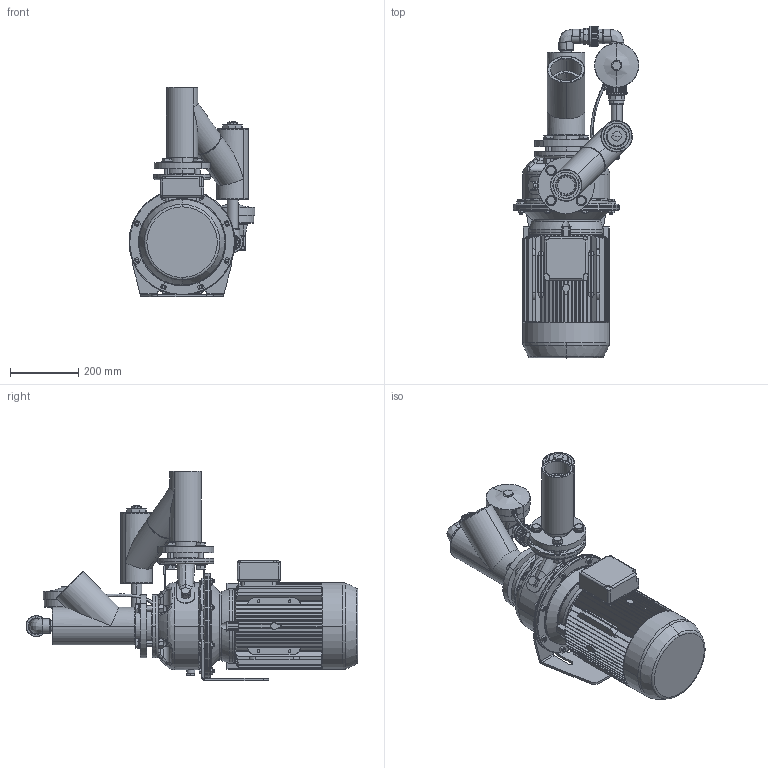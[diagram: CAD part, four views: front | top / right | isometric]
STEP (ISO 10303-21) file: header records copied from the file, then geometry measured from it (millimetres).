
FILE_DESCRIPTION (( 'STEP AP203' ), '1' );
FILE_NAME ('Lowara SHE 50-200 z.a.z auto. by-pass.STEP', '2011-04-07T08:39:59', ( '' ), ( '' ), 'SwSTEP 2.0', 'SolidWorks 2010', '' );
FILE_SCHEMA (( 'CONFIG_CONTROL_DESIGN' ));
Products named in the file (1): Lowara SHE 50-200 z.a.z auto. by-pass
Bounding box: 368 x 971.89 x 613.48 mm (x, y, z)
Volume: 32864298.2 mm3; surface area: 2911535.6 mm2
Topology: 66 solids, 68 shells, 2983 faces, 7506 edges, 4684 vertices
Faces by surface type: plane 1121, cylinder 947, cone 497, bspline 376, torus 42
Entity records: 114559 total; most frequent: CARTESIAN_POINT 46258, ORIENTED_EDGE 14824, DIRECTION 13723, EDGE_CURVE 7412, AXIS2_PLACEMENT_3D 5474, VERTEX_POINT 4684, EDGE_LOOP 3268, ADVANCED_FACE 2983
